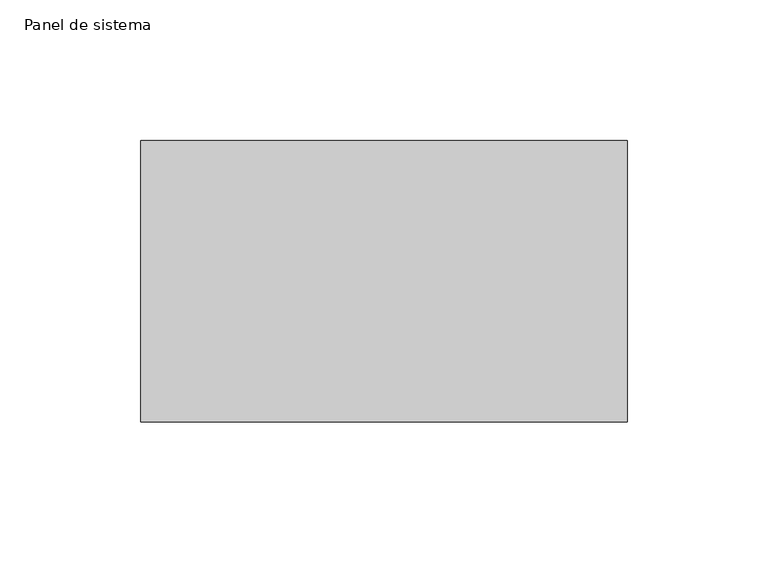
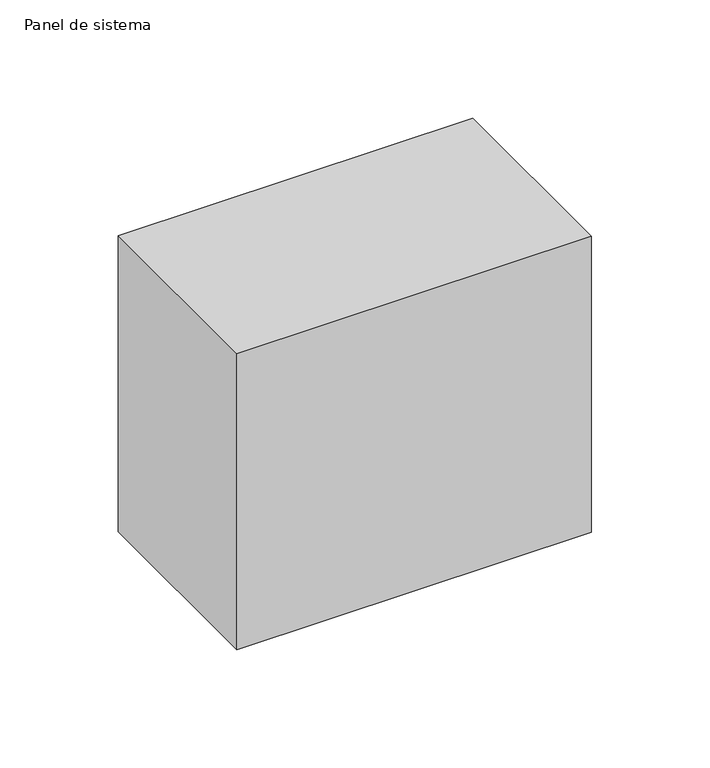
"""IFC4 building model written with IfcOpenShell, lengths in millimetres: plate geometry, Panel de sistema : PAVES."""

from ifc_helpers import new_model, si_unit, origin, origin_with_axes, place, context, project, spatial, polyline, outline, extrude, source, transform, mapped, element, save


def panel_de_sistema_fa78a8eb(model_context):
    return source(origin(), model_context, "Body", "SweptSolid", [
        extrude(outline(polyline([(86.3692571, -50.0), (-86.3692571, -50.0), (-86.3692571, 50.0), (86.3692571, 50.0), (86.3692571, -50.0)])), origin_with_axes(), (0.0, 0.0, 1.0), 152.5),
    ])


if __name__ == "__main__":
    model = new_model("IFC4")
    model_context = context("Model", 3, world=origin())
    ifc_project = project(units=[si_unit("LENGTHUNIT", "METRE", prefix="MILLI")], contexts=[model_context])
    site = spatial("IfcSite", under=ifc_project)
    building = spatial("IfcBuilding", under=site)
    placement = place(None, origin())
    panel_de_sistema_shape = panel_de_sistema_fa78a8eb(model_context)
    element("IfcPlate", 1, ObjectType="Panel de sistema : PAVES", at=placement, inside=building, context=model_context, shape_type="MappedRepresentation", body=[
        mapped(panel_de_sistema_shape, transform((0.0, 0.0, 0.0), x_axis=(1.0, 0.0, 0.0), y_axis=(0.0, 1.0, 0.0), z_axis=(0.0, 0.0, 1.0))),
    ])
    save(model, "model.ifc")
